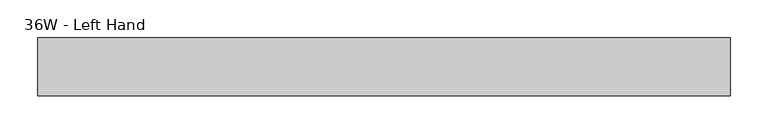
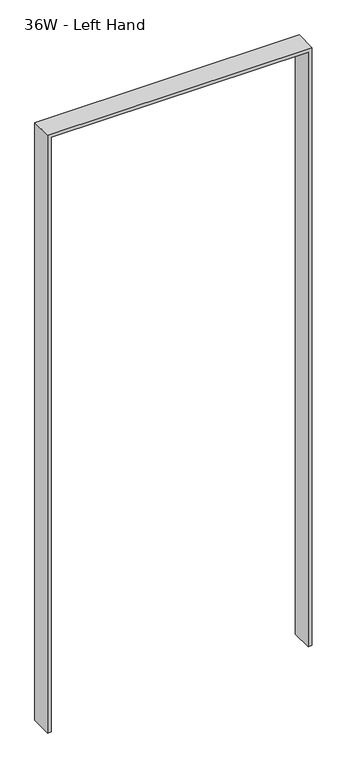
"""IFC4 building model written with IfcOpenShell, lengths in millimetres: furniture geometry, Steelcase - Montage - Door - Door Frame : 36W - Left Hand."""

from ifc_helpers import new_model, si_unit, frame, origin, place, context, project, spatial, polyline, outline, extrude, source, transform, mapped, element, save


def furniture_36w_left_hand_83fb8a5f(model_context):
    return source(origin(), model_context, "Body", "SweptSolid", [
        extrude(outline(polyline([(0.0, 12.7000004), (2171.7, 12.7000004), (2171.7, 901.6999996), (0.0, 901.6999996), (0.0, 914.4), (2184.3999516, 914.4), (2184.3999516, 0.0), (0.0, 0.0), (0.0, 12.7000004)])), frame((0.0, -38.1000015, 0.0), z_axis=(0.0, 1.0, 0.0), x_axis=(0.0, 0.0, 1.0)), (0.0, 0.0, 1.0), 76.200003),
    ])


if __name__ == "__main__":
    model = new_model("IFC4")
    model_context = context("Model", 3, world=origin())
    ifc_project = project(units=[si_unit("LENGTHUNIT", "METRE", prefix="MILLI")], contexts=[model_context])
    site = spatial("IfcSite", under=ifc_project)
    building = spatial("IfcBuilding", under=site)
    placement = place(None, origin())
    furniture_36w_left_hand_shape = furniture_36w_left_hand_83fb8a5f(model_context)
    element("IfcFurniture", 1, ObjectType="Steelcase - Montage - Door - Door Frame : 36W - Left Hand", at=placement, inside=building, context=model_context, shape_type="MappedRepresentation", body=[
        mapped(furniture_36w_left_hand_shape, transform((0.0, 0.0, 0.0), x_axis=(1.0, 0.0, 0.0), y_axis=(0.0, 1.0, 0.0), z_axis=(0.0, 0.0, 1.0))),
    ])
    save(model, "model.ifc")
